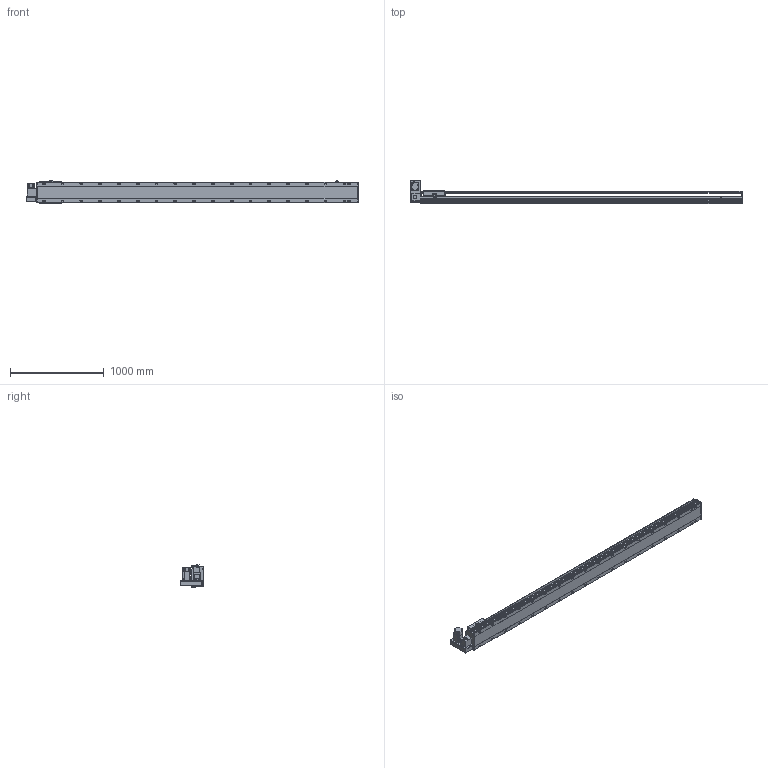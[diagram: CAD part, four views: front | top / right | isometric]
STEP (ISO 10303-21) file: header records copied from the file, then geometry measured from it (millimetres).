
FILE_DESCRIPTION(/* description */ ('STEP AP214'),/* implementation_level */ '2;1');
FILE_NAME(/* name */ 'PBS220-P40-S3050-LU-T75-C1-N(0)',/* time_stamp */ '2022-06-13T02:39:52+02:00',/* author */ ('License CC BY-ND 4.0'),/* organization */ ('CADENAS'),/* preprocessor_version */ 'ST-DEVELOPER v18.102',/* originating_system */ 'PARTsolutions',/* authorisation */ ' ');
FILE_SCHEMA (('AUTOMOTIVE_DESIGN {1 0 10303 214 3 1 1}'));
Length unit declared in the file: millimetre
Products named in the file (7): PBS220-P40-S3050-LU-T75-C1-N(0); PBS220_sensor; PBS220_plant; PBS220_sliser; T75-p1; PBS220T-LU_motors; PBS220-S3050()_body
Assembly tree (8 placements, depth 2):
  PBS220-P40-S3050-LU-T75-C1-N(0)
    PBS220_sensor  x3
    PBS220_plant
    PBS220_sliser
    T75-p1
    PBS220T-LU_motors
    PBS220-S3050()_body
Bounding box: 3534 x 247 x 238.5 mm (x, y, z)
Volume: 49059410.1 mm3; surface area: 4451685.9 mm2
Topology: 8 solids, 8 shells, 1034 faces, 2676 edges, 1738 vertices
Faces by surface type: plane 638, cylinder 336, cone 60
Full cylindrical faces by diameter (mm): 2.013 x4, 4.5 x14, 4.917 x4, 6 x7, 6.647 x8, 8 x10, 8.376 x36, 8.5 x36, 10 x6, 14 x36, 38 x2, 40 x1, 70 x1
Entity records: 28749 total; most frequent: CARTESIAN_POINT 5152, DIRECTION 4995, ORIENTED_EDGE 4466, EDGE_CURVE 2233, AXIS2_PLACEMENT_3D 1815, VERTEX_POINT 1576, EDGE_LOOP 1389, FACE_BOUND 1389
